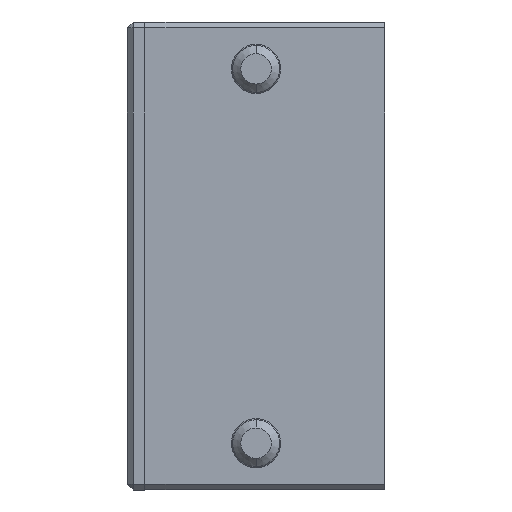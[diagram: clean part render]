
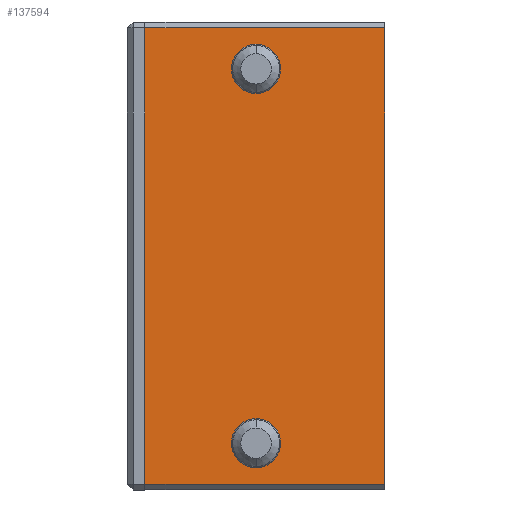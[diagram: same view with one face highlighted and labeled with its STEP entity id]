
A CAD part, left-side view. The second image highlights one B-rep face of the part: STEP entity #137594.
In plain terms, the highlighted planar face has unit normal (-1, 0, 0).
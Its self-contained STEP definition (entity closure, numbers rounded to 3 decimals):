
#4181 = VERTEX_POINT ( 'NONE', #14454 ) ;
#4510 = ORIENTED_EDGE ( 'NONE', *, *, #54450, .T. ) ;
#5395 = ORIENTED_EDGE ( 'NONE', *, *, #23009, .F. ) ;
#6210 = VECTOR ( 'NONE', #40279, 1000. ) ;
#7979 = DIRECTION ( 'NONE',  ( 0., 0., 1. ) ) ;
#11768 = CIRCLE ( 'NONE', #105969, 2.1 ) ;
#11871 = CARTESIAN_POINT ( 'NONE',  ( -22.5, 20.5, -19.5 ) ) ;
#12022 = VERTEX_POINT ( 'NONE', #64029 ) ;
#12269 = CARTESIAN_POINT ( 'NONE',  ( -22.5, 0., -19.5 ) ) ;
#14454 = CARTESIAN_POINT ( 'NONE',  ( -22.5, 11., 18.1 ) ) ;
#15706 = CARTESIAN_POINT ( 'NONE',  ( -22.5, 11., 16. ) ) ;
#16200 = LINE ( 'NONE', #121006, #6210 ) ;
#19219 = VECTOR ( 'NONE', #105017, 1000. ) ;
#19429 = DIRECTION ( 'NONE',  ( 0., 0., -1. ) ) ;
#20965 = FACE_OUTER_BOUND ( 'NONE', #40855, .T. ) ;
#22954 = DIRECTION ( 'NONE',  ( -1., 0., 0. ) ) ;
#23009 = EDGE_CURVE ( 'NONE', #138828, #4181, #129820, .T. ) ;
#32159 = ORIENTED_EDGE ( 'NONE', *, *, #151596, .F. ) ;
#38218 = CARTESIAN_POINT ( 'NONE',  ( -22.5, 20.5, 19.5 ) ) ;
#40094 = CARTESIAN_POINT ( 'NONE',  ( -22.5, 11., 16. ) ) ;
#40279 = DIRECTION ( 'NONE',  ( 0., 1., 0. ) ) ;
#40855 = EDGE_LOOP ( 'NONE', ( #57055, #150331, #4510, #109597 ) ) ;
#43544 = CARTESIAN_POINT ( 'NONE',  ( -22.5, 20.5, 20. ) ) ;
#45576 = DIRECTION ( 'NONE',  ( 0., 0., 1. ) ) ;
#46352 = AXIS2_PLACEMENT_3D ( 'NONE', #90620, #22954, #45576 ) ;
#50643 = EDGE_CURVE ( 'NONE', #145180, #131448, #110558, .T. ) ;
#50790 = VERTEX_POINT ( 'NONE', #142666 ) ;
#54450 = EDGE_CURVE ( 'NONE', #56516, #50790, #57682, .T. ) ;
#56516 = VERTEX_POINT ( 'NONE', #12269 ) ;
#57055 = ORIENTED_EDGE ( 'NONE', *, *, #50643, .F. ) ;
#57682 = LINE ( 'NONE', #132061, #19219 ) ;
#59171 = CARTESIAN_POINT ( 'NONE',  ( -22.5, 20.5, -19.5 ) ) ;
#63107 = DIRECTION ( 'NONE',  ( -1., 0., 0. ) ) ;
#64029 = CARTESIAN_POINT ( 'NONE',  ( -22.5, 11., -13.9 ) ) ;
#64756 = CARTESIAN_POINT ( 'NONE',  ( -22.5, 20.5, 20. ) ) ;
#74829 = DIRECTION ( 'NONE',  ( 0., 0., 1. ) ) ;
#75651 = AXIS2_PLACEMENT_3D ( 'NONE', #104231, #150031, #7979 ) ;
#83738 = EDGE_CURVE ( 'NONE', #123961, #12022, #110336, .T. ) ;
#90620 = CARTESIAN_POINT ( 'NONE',  ( -22.5, 11., -16. ) ) ;
#91650 = FACE_BOUND ( 'NONE', #114398, .T. ) ;
#103119 = CARTESIAN_POINT ( 'NONE',  ( -22.5, 11., 13.9 ) ) ;
#104231 = CARTESIAN_POINT ( 'NONE',  ( -22.5, 11., -16. ) ) ;
#105017 = DIRECTION ( 'NONE',  ( 0., 0., 1. ) ) ;
#105969 = AXIS2_PLACEMENT_3D ( 'NONE', #40094, #146403, #147164 ) ;
#106505 = DIRECTION ( 'NONE',  ( 0., -1., 0. ) ) ;
#108284 = EDGE_CURVE ( 'NONE', #145180, #56516, #146531, .T. ) ;
#109509 = ORIENTED_EDGE ( 'NONE', *, *, #121482, .F. ) ;
#109597 = ORIENTED_EDGE ( 'NONE', *, *, #114057, .T. ) ;
#110020 = AXIS2_PLACEMENT_3D ( 'NONE', #15706, #63107, #110435 ) ;
#110336 = CIRCLE ( 'NONE', #75651, 2.1 ) ;
#110435 = DIRECTION ( 'NONE',  ( 0., 0., 1. ) ) ;
#110558 = LINE ( 'NONE', #64756, #148531 ) ;
#114057 = EDGE_CURVE ( 'NONE', #50790, #131448, #16200, .T. ) ;
#114398 = EDGE_LOOP ( 'NONE', ( #32159, #129134 ) ) ;
#117110 = EDGE_LOOP ( 'NONE', ( #109509, #5395 ) ) ;
#119900 = VECTOR ( 'NONE', #106505, 1000. ) ;
#121006 = CARTESIAN_POINT ( 'NONE',  ( -22.5, 20.5, 19.5 ) ) ;
#121482 = EDGE_CURVE ( 'NONE', #4181, #138828, #11768, .T. ) ;
#123961 = VERTEX_POINT ( 'NONE', #151355 ) ;
#129134 = ORIENTED_EDGE ( 'NONE', *, *, #83738, .F. ) ;
#129820 = CIRCLE ( 'NONE', #110020, 2.1 ) ;
#131448 = VERTEX_POINT ( 'NONE', #38218 ) ;
#132061 = CARTESIAN_POINT ( 'NONE',  ( -22.5, 0., 20. ) ) ;
#133033 = CIRCLE ( 'NONE', #46352, 2.1 ) ;
#137594 = ADVANCED_FACE ( 'NONE', ( #91650, #149830, #20965 ), #139708, .F. ) ;
#138828 = VERTEX_POINT ( 'NONE', #103119 ) ;
#139708 = PLANE ( 'NONE',  #144216 ) ;
#142666 = CARTESIAN_POINT ( 'NONE',  ( -22.5, 0., 19.5 ) ) ;
#144216 = AXIS2_PLACEMENT_3D ( 'NONE', #43544, #151367, #19429 ) ;
#145180 = VERTEX_POINT ( 'NONE', #11871 ) ;
#146403 = DIRECTION ( 'NONE',  ( -1., 0., 0. ) ) ;
#146531 = LINE ( 'NONE', #59171, #119900 ) ;
#147164 = DIRECTION ( 'NONE',  ( 0., 0., 1. ) ) ;
#148531 = VECTOR ( 'NONE', #74829, 1000. ) ;
#149830 = FACE_BOUND ( 'NONE', #117110, .T. ) ;
#150031 = DIRECTION ( 'NONE',  ( -1., 0., 0. ) ) ;
#150331 = ORIENTED_EDGE ( 'NONE', *, *, #108284, .T. ) ;
#151355 = CARTESIAN_POINT ( 'NONE',  ( -22.5, 11., -18.1 ) ) ;
#151367 = DIRECTION ( 'NONE',  ( 1., 0., 0. ) ) ;
#151596 = EDGE_CURVE ( 'NONE', #12022, #123961, #133033, .T. ) ;
